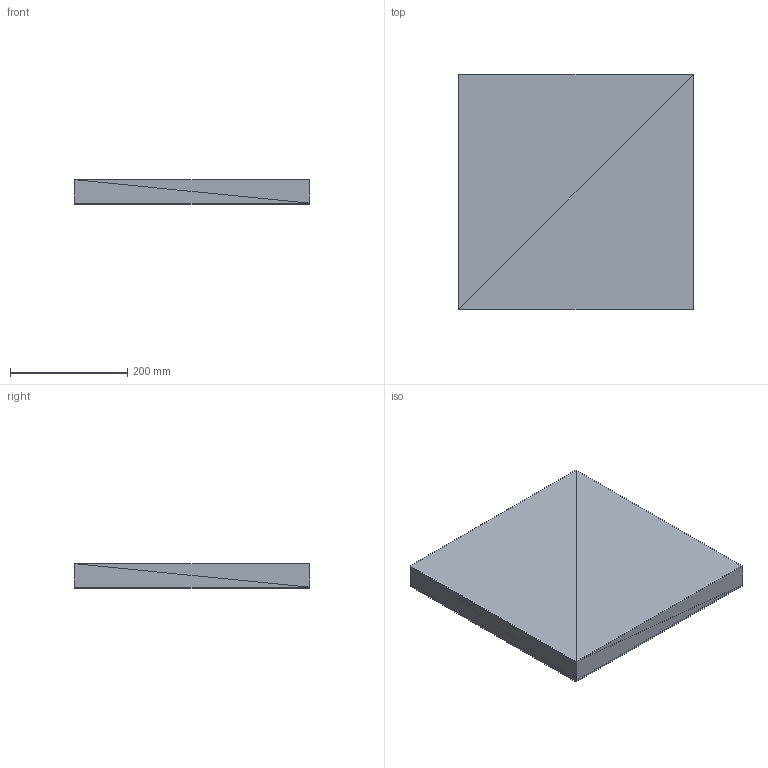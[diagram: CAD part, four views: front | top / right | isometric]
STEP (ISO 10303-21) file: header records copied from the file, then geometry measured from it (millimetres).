
FILE_DESCRIPTION(('ISINAC STEP AP214'),'2;1');
FILE_NAME('ISINAC_C.400_40mm_IMANTADA','2026-05-03T10:49:19',('ISINAC'),('www.isinac.com'),'ISINAC BIM Generator 1.0','','');
FILE_SCHEMA(('AUTOMOTIVE_DESIGN'));
Length unit declared in the file: millimetre
Products named in the file (1): ISINAC_C.400_40mm_IMANTADA
Bounding box: 400 x 400 x 42 mm (x, y, z)
Surface area: 707200 mm2 (no closed solid volume)
Topology: 0 solids, 24 shells, 24 faces, 72 edges, 72 vertices
Faces by surface type: plane 24
Entity records: 277 total; most frequent: CARTESIAN_POINT 96, DIRECTION 48, POLY_LOOP 24, FACE_OUTER_BOUND 24, AXIS2_PLACEMENT_3D 24, PLANE 24, FACE_SURFACE 24, CLOSED_SHELL 1
